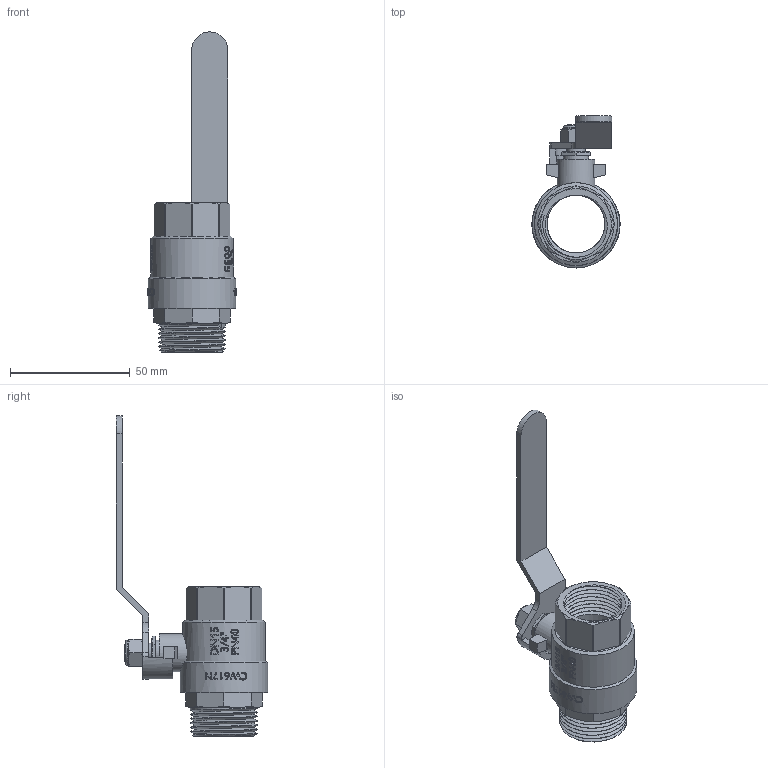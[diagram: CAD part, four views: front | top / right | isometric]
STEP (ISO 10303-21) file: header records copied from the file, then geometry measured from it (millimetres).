
FILE_DESCRIPTION(/* description */ (''),/* implementation_level */ '2;1');
FILE_NAME(/* name */ 'H:\Мишенин_3D\Исходные файлы 3D\VT.215.N.05.stp',/* time_stamp */ '2018-01-16T15:03:21+03:00',/* author */ ('MisheninAL'),/* organization */ (''),/* preprocessor_version */ 'ST-DEVELOPER v16.13',/* originating_system */ 'Autodesk Inventor 2018',/* authorisation */ '');
FILE_SCHEMA (('AUTOMOTIVE_DESIGN { 1 0 10303 214 3 1 1 }'));
Length unit declared in the file: millimetre
Products named in the file (1): VT.215_ ВН_3%4
Bounding box: 36.7 x 63.16 x 133.42 mm (x, y, z)
Volume: 29000.5 mm3; surface area: 20041.3 mm2
Topology: 1 solids, 1 shells, 529 faces, 1423 edges, 947 vertices
Faces by surface type: plane 228, bspline 198, cylinder 78, cone 21, torus 4
Full cylindrical faces by diameter (mm): 8 x2, 10.392 x1, 10.5 x1, 15.729 x1, 24.1 x8, 34.522 x1, 36.509 x1
Entity records: 26571 total; most frequent: CARTESIAN_POINT 14773, ORIENTED_EDGE 2754, DIRECTION 1878, EDGE_CURVE 1377, VERTEX_POINT 923, LINE 654, VECTOR 654, AXIS2_PLACEMENT_3D 612
